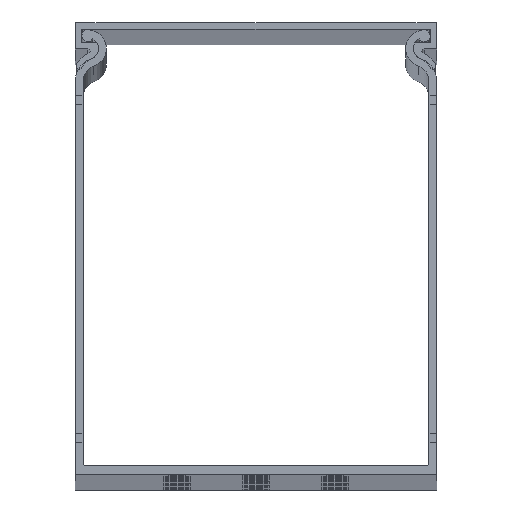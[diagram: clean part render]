
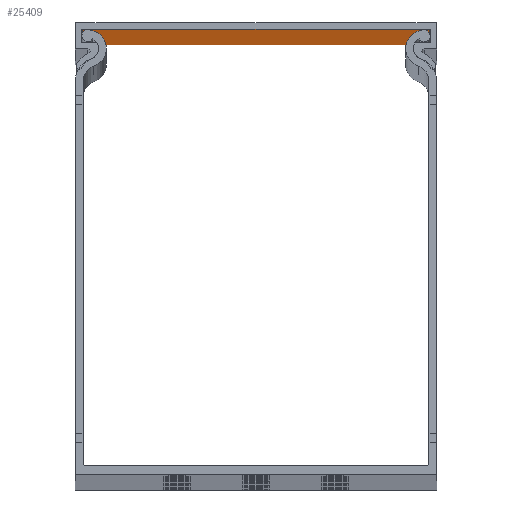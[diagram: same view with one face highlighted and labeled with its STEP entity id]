
A CAD part, top view. The second image highlights one B-rep face of the part: STEP entity #25409.
In plain terms, the highlighted planar face has unit normal (0, -1, 0).
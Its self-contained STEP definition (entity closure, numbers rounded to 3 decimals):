
#1310 = DIRECTION ( 'NONE',  ( 0., 0., 1. ) ) ;
#1957 = DIRECTION ( 'NONE',  ( 0., 0., -1. ) ) ;
#2833 = VECTOR ( 'NONE', #15808, 1000. ) ;
#3305 = CARTESIAN_POINT ( 'NONE',  ( 2568.407, 1295.656, 2000. ) ) ;
#4608 = VECTOR ( 'NONE', #41970, 1000. ) ;
#4991 = CARTESIAN_POINT ( 'NONE',  ( 2568.407, 1295.656, 0. ) ) ;
#8902 = EDGE_CURVE ( 'NONE', #35712, #36089, #56440, .T. ) ;
#11117 = VECTOR ( 'NONE', #13973, 1000. ) ;
#13973 = DIRECTION ( 'NONE',  ( 1., 0., 0. ) ) ;
#15808 = DIRECTION ( 'NONE',  ( 0., 0., -1. ) ) ;
#25409 = ADVANCED_FACE ( 'NONE', ( #26968 ), #37205, .F. ) ;
#26968 = FACE_OUTER_BOUND ( 'NONE', #39335, .T. ) ;
#29720 = EDGE_CURVE ( 'NONE', #62394, #46352, #37191, .T. ) ;
#33241 = AXIS2_PLACEMENT_3D ( 'NONE', #63985, #53631, #1310 ) ;
#33950 = ORIENTED_EDGE ( 'NONE', *, *, #8902, .T. ) ;
#35712 = VERTEX_POINT ( 'NONE', #48963 ) ;
#36089 = VERTEX_POINT ( 'NONE', #62712 ) ;
#36436 = CARTESIAN_POINT ( 'NONE',  ( 2606.807, 1295.656, 2000. ) ) ;
#37191 = LINE ( 'NONE', #36436, #2833 ) ;
#37205 = PLANE ( 'NONE',  #33241 ) ;
#39335 = EDGE_LOOP ( 'NONE', ( #42222, #50578, #66707, #33950 ) ) ;
#41970 = DIRECTION ( 'NONE',  ( 1., 0., 0. ) ) ;
#42222 = ORIENTED_EDGE ( 'NONE', *, *, #48414, .T. ) ;
#43112 = CARTESIAN_POINT ( 'NONE',  ( 2530.007, 1295.656, 2000. ) ) ;
#44094 = EDGE_CURVE ( 'NONE', #35712, #62394, #48749, .T. ) ;
#46352 = VERTEX_POINT ( 'NONE', #59737 ) ;
#48414 = EDGE_CURVE ( 'NONE', #36089, #46352, #57724, .T. ) ;
#48749 = LINE ( 'NONE', #3305, #11117 ) ;
#48963 = CARTESIAN_POINT ( 'NONE',  ( 2530.007, 1295.656, 2000. ) ) ;
#50578 = ORIENTED_EDGE ( 'NONE', *, *, #29720, .F. ) ;
#53631 = DIRECTION ( 'NONE',  ( 0., 1., 0. ) ) ;
#56440 = LINE ( 'NONE', #43112, #58113 ) ;
#57724 = LINE ( 'NONE', #4991, #4608 ) ;
#58113 = VECTOR ( 'NONE', #1957, 1000. ) ;
#59737 = CARTESIAN_POINT ( 'NONE',  ( 2606.807, 1295.656, 0. ) ) ;
#62394 = VERTEX_POINT ( 'NONE', #67106 ) ;
#62712 = CARTESIAN_POINT ( 'NONE',  ( 2530.007, 1295.656, 0. ) ) ;
#63985 = CARTESIAN_POINT ( 'NONE',  ( 2568.407, 1295.656, 2000. ) ) ;
#66707 = ORIENTED_EDGE ( 'NONE', *, *, #44094, .F. ) ;
#67106 = CARTESIAN_POINT ( 'NONE',  ( 2606.807, 1295.656, 2000. ) ) ;
